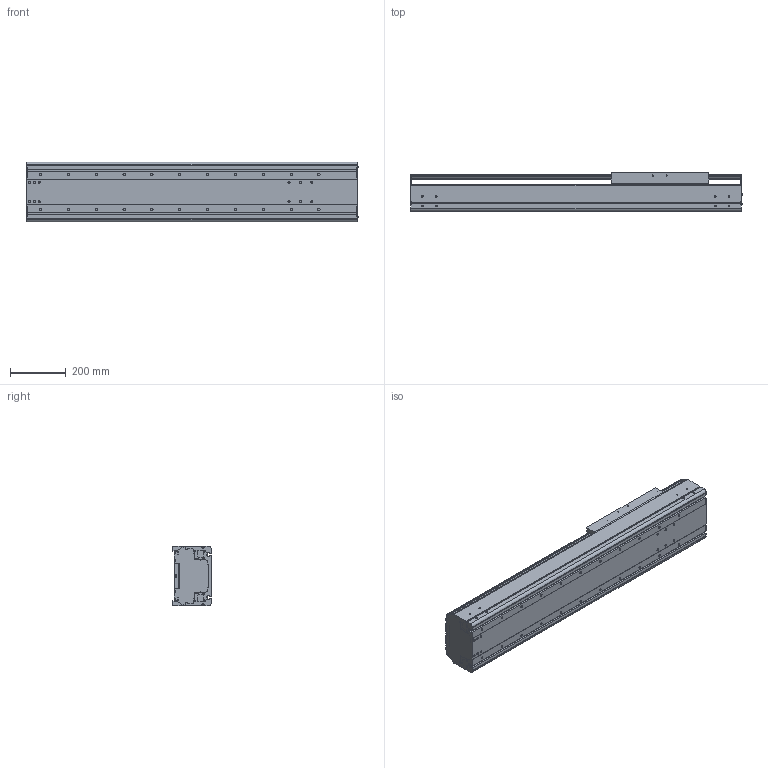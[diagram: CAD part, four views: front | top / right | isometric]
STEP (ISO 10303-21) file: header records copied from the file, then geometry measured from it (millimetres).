
FILE_DESCRIPTION((''),'2;1');
FILE_NAME('BE60J-ST-L_N-65_IGS_PRT','2017-06-18T',(' '),(''),'PRO/ENGINEER BY PARAMETRIC TECHNOLOGY CORPORATION, 2015030','PRO/ENGINEER BY PARAMETRIC TECHNOLOGY CORPORATION, 2015030','');
FILE_SCHEMA(('CONFIG_CONTROL_DESIGN'));
Length unit declared in the file: millimetre
Products named in the file (1): BE60J-ST-L_N-65_IGS_PRT
Bounding box: 1192.4 x 140 x 214 mm (x, y, z)
Volume: 9777279.4 mm3; surface area: 2642854.6 mm2
Topology: 2 solids, 108 shells, 1403 faces, 3906 edges, 2589 vertices
Faces by surface type: cylinder 708, plane 587, cone 60, torus 24, sphere 24
Entity records: 46854 total; most frequent: CARTESIAN_POINT 10347, DIRECTION 7666, ORIENTED_EDGE 7280, EDGE_CURVE 3848, AXIS2_PLACEMENT_3D 2840, VERTEX_POINT 2588, VECTOR 1986, LINE 1986
